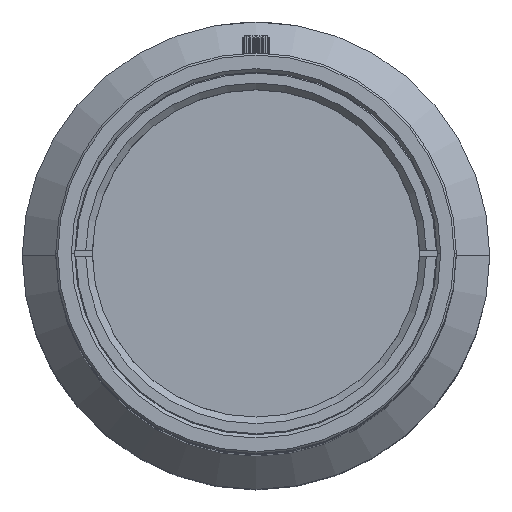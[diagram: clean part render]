
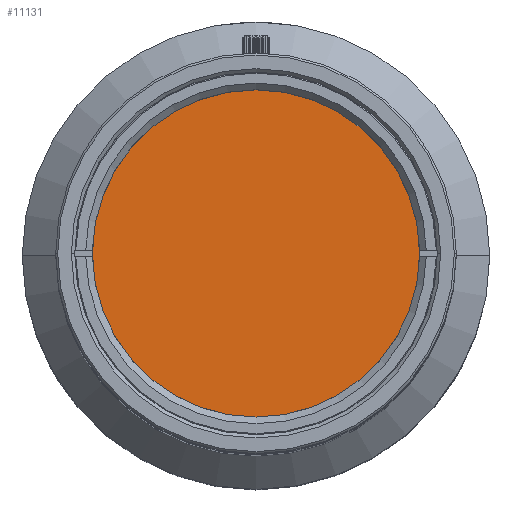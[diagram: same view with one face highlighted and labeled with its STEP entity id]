
A CAD part, top view. The second image highlights one B-rep face of the part: STEP entity #11131.
In plain terms, the highlighted planar face has unit normal (0, 0, 1).
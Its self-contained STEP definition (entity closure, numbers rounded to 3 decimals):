
#1419 = CARTESIAN_POINT ( 'NONE',  ( 0., 0., 59.414 ) ) ;
#1427 = DIRECTION ( 'NONE',  ( -1., 0., 0. ) ) ;
#2763 = CIRCLE ( 'NONE', #10484, 24.6 ) ;
#2893 = DIRECTION ( 'NONE',  ( 0., 0., 1. ) ) ;
#3059 = CARTESIAN_POINT ( 'NONE',  ( 0., 24.6, 59.414 ) ) ;
#3124 = DIRECTION ( 'NONE',  ( 1., 0., 0. ) ) ;
#6050 = FACE_OUTER_BOUND ( 'NONE', #19584, .T. ) ;
#6920 = ORIENTED_EDGE ( 'NONE', *, *, #13666, .T. ) ;
#9269 = CARTESIAN_POINT ( 'NONE',  ( 24.6, 0., 59.414 ) ) ;
#9795 = PLANE ( 'NONE',  #12852 ) ;
#10484 = AXIS2_PLACEMENT_3D ( 'NONE', #12968, #2893, #14655 ) ;
#10611 = ORIENTED_EDGE ( 'NONE', *, *, #16913, .T. ) ;
#11021 = AXIS2_PLACEMENT_3D ( 'NONE', #1419, #13195, #3124 ) ;
#11131 = ADVANCED_FACE ( 'NONE', ( #6050 ), #9795, .F. ) ;
#11285 = CARTESIAN_POINT ( 'NONE',  ( -24.6, 0., 59.414 ) ) ;
#11485 = DIRECTION ( 'NONE',  ( 0., 0., -1. ) ) ;
#12852 = AXIS2_PLACEMENT_3D ( 'NONE', #3059, #11485, #1427 ) ;
#12968 = CARTESIAN_POINT ( 'NONE',  ( 0., 0., 59.414 ) ) ;
#13195 = DIRECTION ( 'NONE',  ( 0., 0., 1. ) ) ;
#13666 = EDGE_CURVE ( 'NONE', #17707, #14716, #17196, .T. ) ;
#14655 = DIRECTION ( 'NONE',  ( 1., 0., 0. ) ) ;
#14716 = VERTEX_POINT ( 'NONE', #11285 ) ;
#16913 = EDGE_CURVE ( 'NONE', #14716, #17707, #2763, .T. ) ;
#17196 = CIRCLE ( 'NONE', #11021, 24.6 ) ;
#17707 = VERTEX_POINT ( 'NONE', #9269 ) ;
#19584 = EDGE_LOOP ( 'NONE', ( #10611, #6920 ) ) ;
